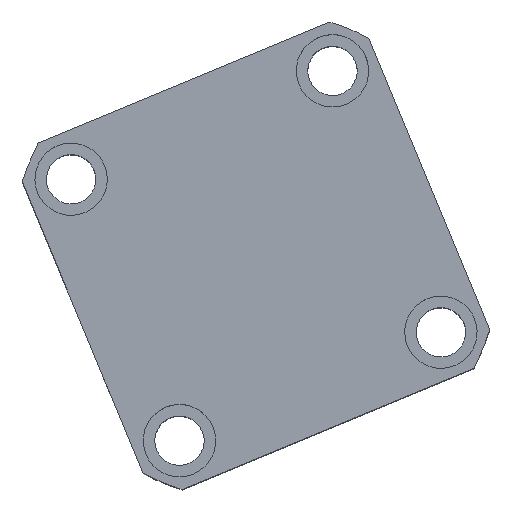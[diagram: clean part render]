
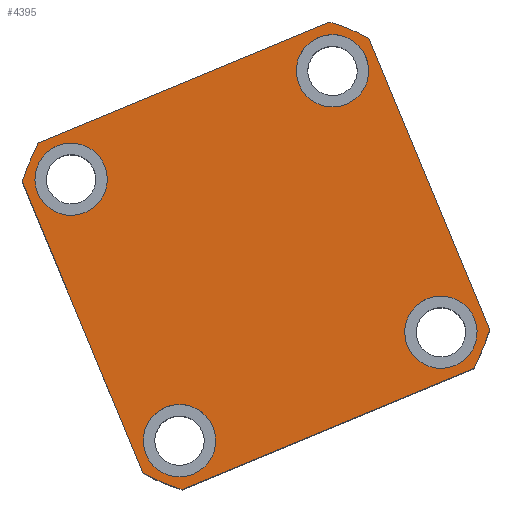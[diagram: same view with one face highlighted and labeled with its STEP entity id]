
A CAD part, top view. The second image highlights one B-rep face of the part: STEP entity #4395.
In plain terms, the highlighted planar face has unit normal (0, 0, 1) as drawn and (0, 0, -1) by its records, which use the part's own axes.
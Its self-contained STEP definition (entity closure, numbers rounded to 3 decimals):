
#179 = CIRCLE ( 'NONE', #6838, 74.5 ) ;
#206 = EDGE_CURVE ( 'NONE', #6737, #10268, #11141, .T. ) ;
#236 = CARTESIAN_POINT ( 'NONE',  ( 0., 0., 0. ) ) ;
#281 = EDGE_CURVE ( 'NONE', #8448, #18012, #15830, .T. ) ;
#445 = CARTESIAN_POINT ( 'NONE',  ( -57., 47.971, 0. ) ) ;
#546 = DIRECTION ( 'NONE',  ( 0., 0., 1. ) ) ;
#673 = AXIS2_PLACEMENT_3D ( 'NONE', #8880, #11787, #12061 ) ;
#789 = CIRCLE ( 'NONE', #11783, 11. ) ;
#790 = CARTESIAN_POINT ( 'NONE',  ( -47.971, 57., 0. ) ) ;
#1115 = DIRECTION ( 'NONE',  ( 0., 0., -1. ) ) ;
#1458 = EDGE_CURVE ( 'NONE', #6188, #15219, #14317, .T. ) ;
#1840 = CARTESIAN_POINT ( 'NONE',  ( -54., 43., 0. ) ) ;
#1842 = DIRECTION ( 'NONE',  ( 1., 0., 0. ) ) ;
#2165 = CARTESIAN_POINT ( 'NONE',  ( 32., -43., 0. ) ) ;
#2267 = VERTEX_POINT ( 'NONE', #1840 ) ;
#2720 = EDGE_LOOP ( 'NONE', ( #15788, #11101 ) ) ;
#2904 = CARTESIAN_POINT ( 'NONE',  ( 0., 0., 0. ) ) ;
#2982 = VECTOR ( 'NONE', #4828, 1000. ) ;
#3146 = DIRECTION ( 'NONE',  ( 0., 0., -1. ) ) ;
#3416 = DIRECTION ( 'NONE',  ( 0., 0., -1. ) ) ;
#3733 = PLANE ( 'NONE',  #20130 ) ;
#3971 = VERTEX_POINT ( 'NONE', #2165 ) ;
#4059 = DIRECTION ( 'NONE',  ( 0., 0., -1. ) ) ;
#4158 = LINE ( 'NONE', #6641, #12062 ) ;
#4177 = AXIS2_PLACEMENT_3D ( 'NONE', #13504, #4059, #15090 ) ;
#4226 = ORIENTED_EDGE ( 'NONE', *, *, #12495, .F. ) ;
#4303 = AXIS2_PLACEMENT_3D ( 'NONE', #5580, #16593, #7156 ) ;
#4395 = ADVANCED_FACE ( 'NONE', ( #11430, #19782, #19298, #7704, #15102 ), #3733, .F. ) ;
#4487 = DIRECTION ( 'NONE',  ( 1., 0., 0. ) ) ;
#4637 = CARTESIAN_POINT ( 'NONE',  ( 43., -43., 0. ) ) ;
#4773 = CARTESIAN_POINT ( 'NONE',  ( -32., -43., 0. ) ) ;
#4828 = DIRECTION ( 'NONE',  ( 0., -1., 0. ) ) ;
#5225 = VECTOR ( 'NONE', #11464, 1000. ) ;
#5227 = VERTEX_POINT ( 'NONE', #10396 ) ;
#5241 = ORIENTED_EDGE ( 'NONE', *, *, #5726, .F. ) ;
#5330 = CARTESIAN_POINT ( 'NONE',  ( 0., 0., 0. ) ) ;
#5572 = CARTESIAN_POINT ( 'NONE',  ( 43., 43., 0. ) ) ;
#5580 = CARTESIAN_POINT ( 'NONE',  ( 0., 0., 0. ) ) ;
#5726 = EDGE_CURVE ( 'NONE', #10113, #15401, #11406, .T. ) ;
#5884 = CIRCLE ( 'NONE', #11220, 11. ) ;
#6010 = EDGE_CURVE ( 'NONE', #10268, #12267, #18280, .T. ) ;
#6188 = VERTEX_POINT ( 'NONE', #11853 ) ;
#6246 = DIRECTION ( 'NONE',  ( -1., 0., 0. ) ) ;
#6641 = CARTESIAN_POINT ( 'NONE',  ( -57., 57., 0. ) ) ;
#6648 = DIRECTION ( 'NONE',  ( 0., 0., -1. ) ) ;
#6726 = ORIENTED_EDGE ( 'NONE', *, *, #16911, .F. ) ;
#6737 = VERTEX_POINT ( 'NONE', #12894 ) ;
#6838 = AXIS2_PLACEMENT_3D ( 'NONE', #236, #11301, #1842 ) ;
#6855 = DIRECTION ( 'NONE',  ( -1., 0., 0. ) ) ;
#6885 = AXIS2_PLACEMENT_3D ( 'NONE', #12594, #3146, #14196 ) ;
#6905 = DIRECTION ( 'NONE',  ( 1., 0., 0. ) ) ;
#7050 = AXIS2_PLACEMENT_3D ( 'NONE', #11654, #11031, #8599 ) ;
#7149 = DIRECTION ( 'NONE',  ( -1., 0., 0. ) ) ;
#7156 = DIRECTION ( 'NONE',  ( 1., 0., 0. ) ) ;
#7161 = ORIENTED_EDGE ( 'NONE', *, *, #18673, .F. ) ;
#7263 = VECTOR ( 'NONE', #19196, 1000. ) ;
#7345 = EDGE_CURVE ( 'NONE', #12267, #5227, #179, .T. ) ;
#7704 = FACE_BOUND ( 'NONE', #2720, .T. ) ;
#7729 = EDGE_CURVE ( 'NONE', #12869, #10113, #9308, .T. ) ;
#7988 = EDGE_LOOP ( 'NONE', ( #18475, #9611, #12817, #6726, #9913, #5241, #8434, #4226 ) ) ;
#8148 = ORIENTED_EDGE ( 'NONE', *, *, #19095, .F. ) ;
#8317 = CARTESIAN_POINT ( 'NONE',  ( -47.971, -57., 0. ) ) ;
#8385 = CARTESIAN_POINT ( 'NONE',  ( -57., -47.971, 0. ) ) ;
#8434 = ORIENTED_EDGE ( 'NONE', *, *, #7729, .F. ) ;
#8448 = VERTEX_POINT ( 'NONE', #14040 ) ;
#8454 = AXIS2_PLACEMENT_3D ( 'NONE', #12871, #3416, #14453 ) ;
#8599 = DIRECTION ( 'NONE',  ( -1., 0., 0. ) ) ;
#8755 = CARTESIAN_POINT ( 'NONE',  ( 43., 43., 0. ) ) ;
#8799 = VERTEX_POINT ( 'NONE', #10495 ) ;
#8880 = CARTESIAN_POINT ( 'NONE',  ( 0., 0., 0. ) ) ;
#9115 = ORIENTED_EDGE ( 'NONE', *, *, #281, .F. ) ;
#9183 = EDGE_CURVE ( 'NONE', #2267, #12376, #17683, .T. ) ;
#9308 = CIRCLE ( 'NONE', #4303, 74.5 ) ;
#9611 = ORIENTED_EDGE ( 'NONE', *, *, #6010, .F. ) ;
#9768 = EDGE_LOOP ( 'NONE', ( #9115, #8148 ) ) ;
#9872 = ORIENTED_EDGE ( 'NONE', *, *, #12864, .F. ) ;
#9913 = ORIENTED_EDGE ( 'NONE', *, *, #13787, .F. ) ;
#9975 = LINE ( 'NONE', #16182, #7263 ) ;
#10113 = VERTEX_POINT ( 'NONE', #445 ) ;
#10147 = VERTEX_POINT ( 'NONE', #8317 ) ;
#10268 = VERTEX_POINT ( 'NONE', #13348 ) ;
#10396 = CARTESIAN_POINT ( 'NONE',  ( 47.971, 57., 0. ) ) ;
#10404 = AXIS2_PLACEMENT_3D ( 'NONE', #2904, #13952, #4487 ) ;
#10495 = CARTESIAN_POINT ( 'NONE',  ( 54., -43., 0. ) ) ;
#10559 = CARTESIAN_POINT ( 'NONE',  ( -43., -43., 0. ) ) ;
#11031 = DIRECTION ( 'NONE',  ( 0., 0., -1. ) ) ;
#11037 = CARTESIAN_POINT ( 'NONE',  ( -57., 57., 0. ) ) ;
#11101 = ORIENTED_EDGE ( 'NONE', *, *, #16758, .F. ) ;
#11141 = CIRCLE ( 'NONE', #673, 74.5 ) ;
#11220 = AXIS2_PLACEMENT_3D ( 'NONE', #5572, #16586, #7149 ) ;
#11301 = DIRECTION ( 'NONE',  ( 0., 0., 1. ) ) ;
#11406 = LINE ( 'NONE', #11037, #2982 ) ;
#11430 = FACE_BOUND ( 'NONE', #9768, .T. ) ;
#11464 = DIRECTION ( 'NONE',  ( 0., 1., 0. ) ) ;
#11654 = CARTESIAN_POINT ( 'NONE',  ( -43., -43., 0. ) ) ;
#11779 = AXIS2_PLACEMENT_3D ( 'NONE', #8755, #6648, #6855 ) ;
#11783 = AXIS2_PLACEMENT_3D ( 'NONE', #10559, #1115, #12166 ) ;
#11787 = DIRECTION ( 'NONE',  ( 0., 0., 1. ) ) ;
#11853 = CARTESIAN_POINT ( 'NONE',  ( 54., 43., 0. ) ) ;
#11857 = ORIENTED_EDGE ( 'NONE', *, *, #15759, .F. ) ;
#12061 = DIRECTION ( 'NONE',  ( 1., 0., 0. ) ) ;
#12062 = VECTOR ( 'NONE', #17662, 1000. ) ;
#12166 = DIRECTION ( 'NONE',  ( -1., 0., 0. ) ) ;
#12267 = VERTEX_POINT ( 'NONE', #20448 ) ;
#12376 = VERTEX_POINT ( 'NONE', #12868 ) ;
#12495 = EDGE_CURVE ( 'NONE', #5227, #12869, #4158, .T. ) ;
#12576 = ORIENTED_EDGE ( 'NONE', *, *, #1458, .F. ) ;
#12594 = CARTESIAN_POINT ( 'NONE',  ( 43., -43., 0. ) ) ;
#12817 = ORIENTED_EDGE ( 'NONE', *, *, #206, .F. ) ;
#12864 = EDGE_CURVE ( 'NONE', #15219, #6188, #5884, .T. ) ;
#12868 = CARTESIAN_POINT ( 'NONE',  ( -32., 43., 0. ) ) ;
#12869 = VERTEX_POINT ( 'NONE', #790 ) ;
#12871 = CARTESIAN_POINT ( 'NONE',  ( -43., 43., 0. ) ) ;
#12894 = CARTESIAN_POINT ( 'NONE',  ( 47.971, -57., 0. ) ) ;
#13037 = CARTESIAN_POINT ( 'NONE',  ( 57., 57., 0. ) ) ;
#13348 = CARTESIAN_POINT ( 'NONE',  ( 57., -47.971, 0. ) ) ;
#13504 = CARTESIAN_POINT ( 'NONE',  ( -43., 43., 0. ) ) ;
#13787 = EDGE_CURVE ( 'NONE', #15401, #10147, #14272, .T. ) ;
#13952 = DIRECTION ( 'NONE',  ( 0., 0., 1. ) ) ;
#14040 = CARTESIAN_POINT ( 'NONE',  ( -54., -43., 0. ) ) ;
#14196 = DIRECTION ( 'NONE',  ( -1., 0., 0. ) ) ;
#14272 = CIRCLE ( 'NONE', #10404, 74.5 ) ;
#14317 = CIRCLE ( 'NONE', #11779, 11. ) ;
#14453 = DIRECTION ( 'NONE',  ( -1., 0., 0. ) ) ;
#14947 = EDGE_LOOP ( 'NONE', ( #9872, #12576 ) ) ;
#15090 = DIRECTION ( 'NONE',  ( -1., 0., 0. ) ) ;
#15102 = FACE_OUTER_BOUND ( 'NONE', #7988, .T. ) ;
#15219 = VERTEX_POINT ( 'NONE', #17025 ) ;
#15401 = VERTEX_POINT ( 'NONE', #8385 ) ;
#15643 = CIRCLE ( 'NONE', #8454, 11. ) ;
#15683 = DIRECTION ( 'NONE',  ( 0., 0., -1. ) ) ;
#15759 = EDGE_CURVE ( 'NONE', #3971, #8799, #16126, .T. ) ;
#15788 = ORIENTED_EDGE ( 'NONE', *, *, #9183, .F. ) ;
#15830 = CIRCLE ( 'NONE', #7050, 11. ) ;
#16126 = CIRCLE ( 'NONE', #16250, 11. ) ;
#16182 = CARTESIAN_POINT ( 'NONE',  ( -57., -57., 0. ) ) ;
#16250 = AXIS2_PLACEMENT_3D ( 'NONE', #4637, #15683, #6246 ) ;
#16370 = CIRCLE ( 'NONE', #6885, 11. ) ;
#16586 = DIRECTION ( 'NONE',  ( 0., 0., -1. ) ) ;
#16593 = DIRECTION ( 'NONE',  ( 0., 0., 1. ) ) ;
#16758 = EDGE_CURVE ( 'NONE', #12376, #2267, #15643, .T. ) ;
#16911 = EDGE_CURVE ( 'NONE', #10147, #6737, #9975, .T. ) ;
#17025 = CARTESIAN_POINT ( 'NONE',  ( 32., 43., 0. ) ) ;
#17140 = EDGE_LOOP ( 'NONE', ( #11857, #7161 ) ) ;
#17662 = DIRECTION ( 'NONE',  ( -1., 0., 0. ) ) ;
#17683 = CIRCLE ( 'NONE', #4177, 11. ) ;
#18012 = VERTEX_POINT ( 'NONE', #4773 ) ;
#18280 = LINE ( 'NONE', #13037, #5225 ) ;
#18475 = ORIENTED_EDGE ( 'NONE', *, *, #7345, .F. ) ;
#18673 = EDGE_CURVE ( 'NONE', #8799, #3971, #16370, .T. ) ;
#19095 = EDGE_CURVE ( 'NONE', #18012, #8448, #789, .T. ) ;
#19196 = DIRECTION ( 'NONE',  ( 1., 0., 0. ) ) ;
#19298 = FACE_BOUND ( 'NONE', #14947, .T. ) ;
#19782 = FACE_BOUND ( 'NONE', #17140, .T. ) ;
#20130 = AXIS2_PLACEMENT_3D ( 'NONE', #5330, #546, #6905 ) ;
#20448 = CARTESIAN_POINT ( 'NONE',  ( 57., 47.971, 0. ) ) ;
